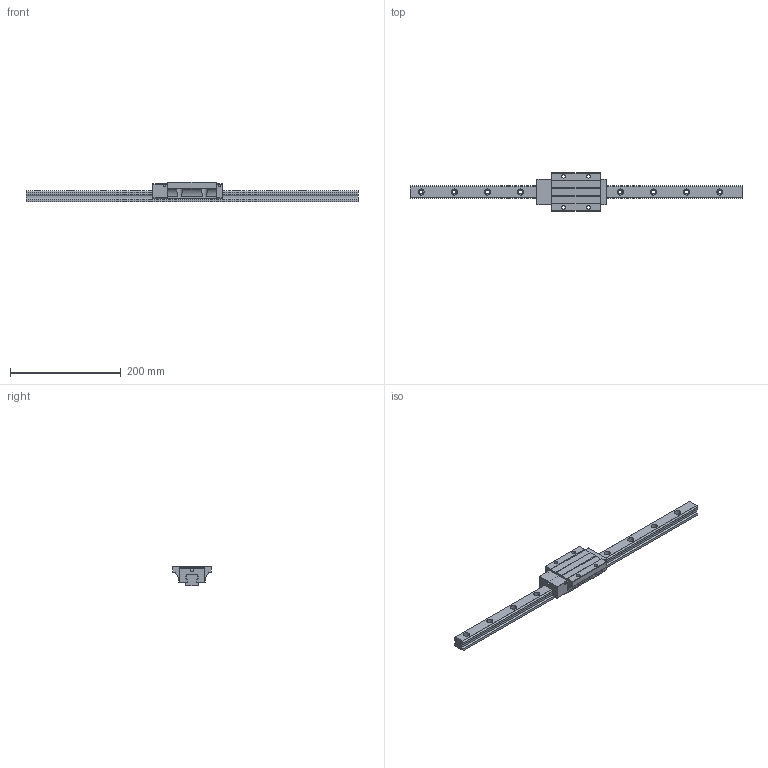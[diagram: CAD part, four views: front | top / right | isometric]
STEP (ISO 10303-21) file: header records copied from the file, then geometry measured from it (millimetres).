
FILE_DESCRIPTION (( 'STEP AP203' ), '1' );
FILE_NAME ('TRH25FE-BN.STEP', '2024-06-26T07:34:37', ( '' ), ( '' ), 'SwSTEP 2.0', 'SolidWorks 2022', '' );
FILE_SCHEMA (( 'CONFIG_CONTROL_DESIGN' ));
Length unit declared in the file: millimetre
Products named in the file (1): TRH25FE-BN
Bounding box: 600 x 70 x 36 mm (x, y, z)
Volume: 388843.9 mm3; surface area: 89955.5 mm2
Topology: 2 solids, 2 shells, 230 faces, 622 edges, 408 vertices
Faces by surface type: cylinder 130, plane 96, sphere 4
Entity records: 7829 total; most frequent: CARTESIAN_POINT 1773, DIRECTION 1276, ORIENTED_EDGE 1236, EDGE_CURVE 618, AXIS2_PLACEMENT_3D 459, VERTEX_POINT 408, LINE 358, VECTOR 358
